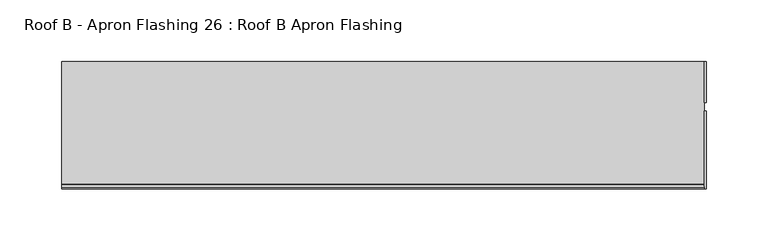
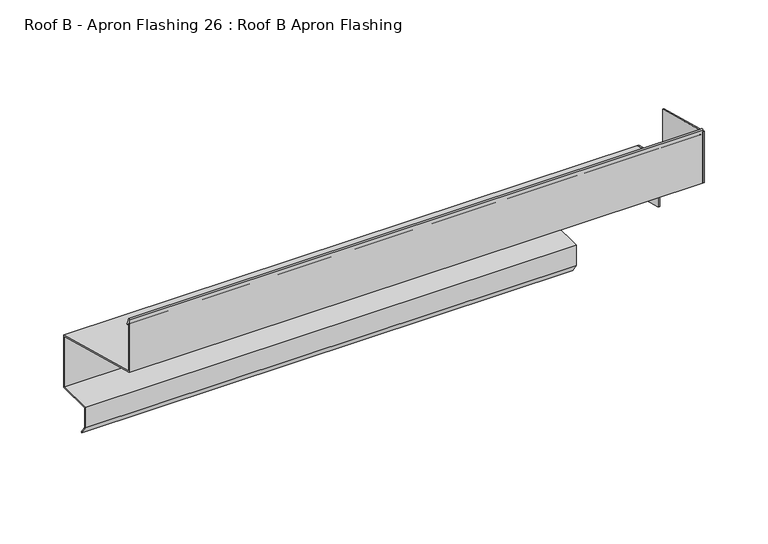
"""IFC4 building model written with IfcOpenShell, lengths in millimetres: proxy geometry, Roof B - Apron Flashing 26 : Roof B Apron Flashing."""

from ifc_helpers import new_model, si_unit, frame, origin, place, context, project, spatial, polyline, circle_curve, outline, extrude, source, transform, mapped, element, save
from ifc_brep_helpers import plane_surface, cylinder_surface, advanced_brep


def roof_b_apron_flashing_26_roof_b_apron_flashing_4fb7a4d9(model_context):
    return source(origin(), model_context, "Body", "SolidModel", [
        extrude(outline(polyline([(-23644.3163589, -242.0096237), (-23644.3163589, -292.0096237), (-23645.3160644, -292.0096237), (-23645.3160644, -289.5944306), (-23677.1912908, -281.0534894), (-23677.1912908, -233.2008122), (-23644.3163589, -242.0096237)])), frame((8375.7613925, 0.0, 0.0), z_axis=(1.0, 0.0, 0.0), x_axis=(0.0, 1.0, 0.0)), (0.0, 0.0, 1.0), 1.3240587),
        extrude(outline(polyline([(-23684.1053777, -232.3834644), (-23747.1893408, -215.4801674), (-23747.1893408, -166.2122183), (-23684.1053777, -183.1155152), (-23684.1053777, -232.3834644)])), frame((8375.7613925, 0.0, 0.0), z_axis=(1.0, 0.0, 0.0), x_axis=(0.0, 1.0, 0.0)), (0.0, 0.0, 1.0), 1.3240587),
        advanced_brep(
        [(8375.7613925, -23644.3163589, -242.0096237), (8375.7613925, -23746.1893408, -214.7128405), (8375.7613925, -23746.1893408, -166.5489273), (8375.7613925, -23744.3934268, -170.9939705), (8375.7613925, -23743.466243, -170.6193639), (8375.7613925, -23745.8806978, -164.6433784), (8375.7613925, -23747.1893408, -164.8977528), (8375.7613925, -23747.1893408, -215.4801674), (8375.7613925, -23645.3163589, -242.7769507), (8375.7613925, -23645.3160644, -292.0096237), (8375.7613925, -23644.3163589, -292.0096237), (7856.7308071, -23644.3163589, -242.0096237), (7856.7308071, -23644.3163589, -292.0096237), (7856.7308071, -23676.9197237, -292.0096237), (7856.7308071, -23676.9197237, -310.3959053), (7856.7308071, -23671.708824, -317.8378413), (7856.7308071, -23672.5279761, -318.4114178), (7856.7308071, -23677.9197237, -310.7112041), (7856.7308071, -23677.9197237, -291.0096237), (7856.7308071, -23645.3163589, -291.0096237), (7856.7308071, -23645.3163589, -242.7769507), (7856.7308071, -23747.1893408, -215.4801674), (7856.7308071, -23747.1893408, -164.8977528), (7856.7308071, -23745.8806978, -164.6433784), (7856.7308071, -23743.466243, -170.6193639), (7856.7308071, -23744.3934268, -170.9939705), (7856.7308071, -23746.1893408, -166.5489273), (7856.7308071, -23746.1893408, -214.7128405), (8301.2186679, -23645.3163589, -291.0096237), (8301.2186679, -23645.3163589, -292.0096237), (8301.2186679, -23677.9197237, -291.0096237), (8301.2186679, -23677.9197237, -310.7112041), (8301.2186679, -23676.9197237, -292.0096237), (8301.2186679, -23676.9197237, -310.3959053), (8301.2186679, -23672.5279761, -318.4114178), (8301.2186679, -23671.708824, -317.8378413)],
        [
            (0, 1),
            (1, 2),
            (2, 3),
            (3, 4, circle_curve(frame((8375.7613925, -23743.9298349, -170.8066672), z_axis=(1.0, 0.0, 0.0), x_axis=(0.0, 0.24192189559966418, 0.9702957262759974)), 0.5)),
            (4, 5),
            (5, 6, circle_curve(frame((8375.7613925, -23746.5102966, -164.8977528), z_axis=(1.0, 0.0, 0.0), x_axis=(0.0, 0.0, 1.0)), 0.6790442)),
            (6, 7),
            (7, 8),
            (8, 9),
            (9, 10),
            (10, 0),
            (11, 12),
            (12, 13),
            (13, 14),
            (14, 15),
            (15, 16),
            (16, 17),
            (17, 18),
            (18, 19),
            (19, 20),
            (20, 21),
            (21, 22),
            (22, 23, circle_curve(frame((7856.7308071, -23746.5102966, -164.8977528), z_axis=(-1.0, 0.0, 0.0), x_axis=(0.0, 0.0, 1.0)), 0.6790442)),
            (23, 24),
            (24, 25, circle_curve(frame((7856.7308071, -23743.9298349, -170.8066672), z_axis=(-1.0, 0.0, 0.0), x_axis=(0.0, 0.24192189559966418, 0.9702957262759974)), 0.5)),
            (25, 26),
            (26, 27),
            (27, 11),
            (0, 11),
            (27, 1),
            (26, 2),
            (25, 3),
            (24, 4),
            (23, 5),
            (22, 6),
            (21, 7),
            (20, 8),
            (19, 28),
            (28, 29),
            (29, 9),
            (18, 30),
            (30, 28),
            (17, 31),
            (31, 30),
            (13, 32),
            (32, 33),
            (33, 14),
            (12, 10),
            (29, 32),
            (16, 34),
            (34, 31),
            (15, 35),
            (35, 34),
            (33, 35),
        ],
        [
            plane_surface(frame((8375.7613925, -23842.7214339, -298.0327356), z_axis=(1.0, 0.0, 0.0), x_axis=(0.0, 1.0, 0.0))),
            plane_surface(frame((7856.7308071, -23842.7214339, -298.0327356), z_axis=(-1.0, 0.0, 0.0), x_axis=(0.0, 1.0, 0.0))),
            plane_surface(frame((8375.7613925, -23644.3163589, -242.0096237), z_axis=(0.0, 0.25881904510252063, 0.9659258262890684), x_axis=(-1.0, 0.0, 0.0))),
            plane_surface(frame((8375.7613925, -23746.1893408, -214.7128405), z_axis=(0.0, 1.0, 0.0), x_axis=(-1.0, 0.0, 0.0))),
            plane_surface(frame((8375.7613925, -23746.1893408, -166.5489273), z_axis=(0.0, -0.9271838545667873, -0.3746065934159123), x_axis=(-1.0, 0.0, 0.0))),
            cylinder_surface(frame((8375.7613925, -23743.9298349, -170.8066672), z_axis=(1.0, 0.0, 0.0), x_axis=(0.0, 0.24192189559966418, 0.9702957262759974)), 0.5),
            plane_surface(frame((8375.7613925, -23743.466243, -170.6193639), z_axis=(0.0, 0.9271838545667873, 0.3746065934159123), x_axis=(-1.0, 0.0, 0.0))),
            cylinder_surface(frame((8375.7613925, -23746.5102966, -164.8977528), z_axis=(1.0, 0.0, 0.0), x_axis=(0.0, 0.0, 1.0)), 0.6790442),
            plane_surface(frame((8375.7613925, -23747.1893408, -164.8977528), z_axis=(0.0, -1.0, 0.0), x_axis=(-1.0, 0.0, 0.0))),
            plane_surface(frame((8375.7613925, -23747.1893408, -215.4801674), z_axis=(0.0, -0.2588190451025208, -0.9659258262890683), x_axis=(-1.0, 0.0, 0.0))),
            plane_surface(frame((8375.7613925, -23645.3163589, -242.7769507), z_axis=(0.0, -1.0, 0.0), x_axis=(-1.0, 0.0, 0.0))),
            plane_surface(frame((8375.7613925, -23645.3163589, -291.0096237), z_axis=(0.0, 0.0, 1.0), x_axis=(-1.0, 0.0, 0.0))),
            plane_surface(frame((8375.7613925, -23677.9197237, -291.0096237), z_axis=(0.0, -1.0, 0.0), x_axis=(-1.0, 0.0, 0.0))),
            plane_surface(frame((8375.7613925, -23676.9197237, -310.3959053), z_axis=(0.0, 1.0, 0.0), x_axis=(-1.0, 0.0, 0.0))),
            plane_surface(frame((8375.7613925, -23676.9197237, -292.0096237), z_axis=(0.0, 0.0, -1.0), x_axis=(-1.0, 0.0, 0.0))),
            plane_surface(frame((8375.7613925, -23644.3163589, -292.0096237), z_axis=(0.0, 1.0, 0.0), x_axis=(-1.0, 0.0, 0.0))),
            plane_surface(frame((8375.7613925, -23677.9197237, -310.7112041), z_axis=(0.0, -0.8191520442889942, -0.5735764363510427), x_axis=(-1.0, 0.0, 0.0))),
            plane_surface(frame((8375.7613925, -23672.5279761, -318.4114178), z_axis=(0.0, 0.5735764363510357, -0.8191520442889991), x_axis=(-1.0, 0.0, 0.0))),
            plane_surface(frame((8375.7613925, -23671.708824, -317.8378413), z_axis=(0.0, 0.8191520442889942, 0.5735764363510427), x_axis=(-1.0, 0.0, 0.0))),
            plane_surface(frame((8301.2186679, -23316.1197558, -605.2282213), z_axis=(1.0, 0.0, 0.0), x_axis=(0.0, -0.9659258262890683, 0.2588190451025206))),
        ],
        [
            (0, [[1, 2, 3, 4, 5, 6, 7, 8, 9, 10, 11]]),
            (1, [[12, 13, 14, 15, 16, 17, 18, 19, 20, 21, 22, 23, 24, 25, 26, 27, 28]]),
            (2, [[-1, 29, -28, 30]]),
            (3, [[-2, -30, -27, 31]]),
            (4, [[-3, -31, -26, 32]]),
            (5, [[-4, -32, -25, 33]]),
            (6, [[-5, -33, -24, 34]]),
            (7, [[-6, -34, -23, 35]]),
            (8, [[-7, -35, -22, 36]]),
            (9, [[-8, -36, -21, 37]]),
            (10, [[-20, 38, 39, 40, -9, -37]]),
            (11, [[-19, 41, 42, -38]]),
            (12, [[-18, 43, 44, -41]]),
            (13, [[-14, 45, 46, 47]]),
            (14, [[-13, 48, -10, -40, 49, -45]]),
            (15, [[-11, -48, -12, -29]]),
            (16, [[-17, 50, 51, -43]]),
            (17, [[-16, 52, 53, -50]]),
            (18, [[-15, -47, 54, -52]]),
            (19, [[-39, -42, -44, -51, -53, -54, -46, -49]]),
        ],
    ),
    ])


if __name__ == "__main__":
    model = new_model("IFC4")
    model_context = context("Model", 3, world=origin())
    ifc_project = project(units=[si_unit("LENGTHUNIT", "METRE", prefix="MILLI")], contexts=[model_context])
    site = spatial("IfcSite", under=ifc_project)
    building = spatial("IfcBuilding", under=site)
    placement = place(None, origin())
    roof_b_apron_flashing_26_roof_b_apron_flashing_shape = roof_b_apron_flashing_26_roof_b_apron_flashing_4fb7a4d9(model_context)
    element("IfcBuildingElementProxy", 1, Name="Roof B - Apron Flashing 26 : Roof B Apron Flashing", ObjectType="Roof B - Apron Flashing 26 : Roof B Apron Flashing", at=placement, inside=building, context=model_context, shape_type="MappedRepresentation", body=[
        mapped(roof_b_apron_flashing_26_roof_b_apron_flashing_shape, transform((0.0, 0.0, 0.0), x_axis=(1.0, 0.0, 0.0), y_axis=(0.0, 1.0, 0.0), z_axis=(0.0, 0.0, 1.0))),
    ])
    save(model, "model.ifc")
